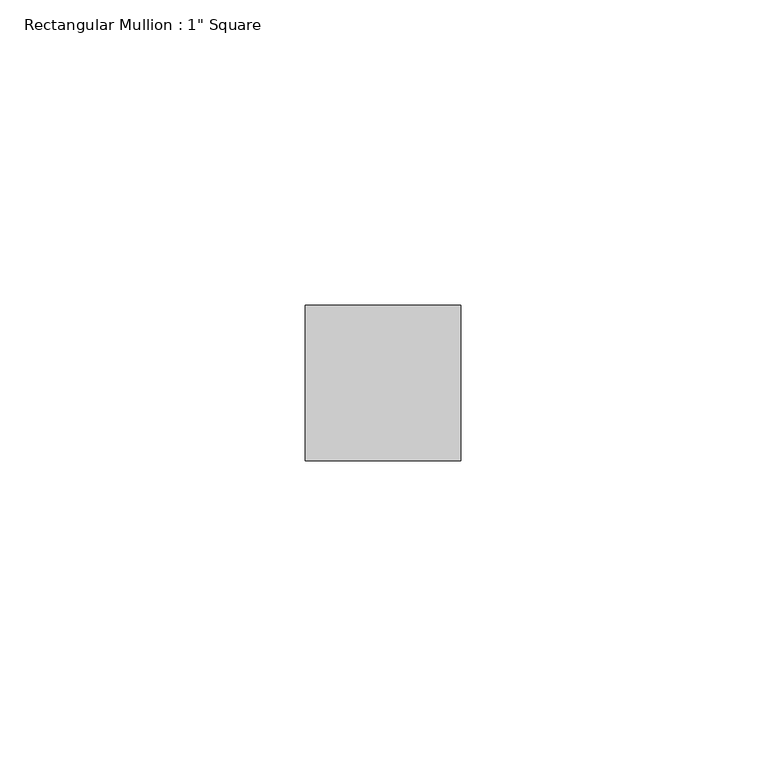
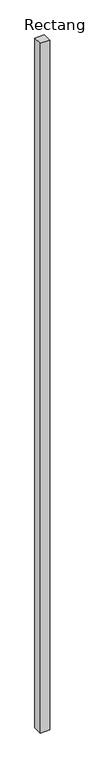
"""IFC4 building model written with IfcOpenShell, lengths in millimetres: member geometry."""

from ifc_helpers import new_model, si_unit, frame, origin, place, context, project, spatial, polyline, outline, extrude, source, transform, mapped, element, save


def member_50d5fd5e(model_context):
    return source(origin(), model_context, "Body", "SweptSolid", [
        extrude(outline(polyline([(12.7, 12.7), (12.7, -12.7), (-12.7, -12.7), (-12.7, 12.7), (12.7, 12.7)])), frame((0.0, 0.0, -1952.113747), z_axis=(0.0, 0.0, 1.0), x_axis=(1.0, 0.0, 0.0)), (0.0, 0.0, 1.0), 1952.113747),
    ])


if __name__ == "__main__":
    model = new_model("IFC4")
    model_context = context("Model", 3, world=origin())
    ifc_project = project(units=[si_unit("LENGTHUNIT", "METRE", prefix="MILLI")], contexts=[model_context])
    site = spatial("IfcSite", under=ifc_project)
    building = spatial("IfcBuilding", under=site)
    placement = place(None, origin())
    member_shape = member_50d5fd5e(model_context)
    element("IfcMember", 1, ObjectType="Rectangular Mullion : 1\" Square", at=placement, inside=building, context=model_context, shape_type="MappedRepresentation", body=[
        mapped(member_shape, transform((0.0, 0.0, 0.0), x_axis=(1.0, 0.0, 0.0), y_axis=(0.0, 1.0, 0.0), z_axis=(0.0, 0.0, 1.0))),
    ])
    save(model, "model.ifc")
